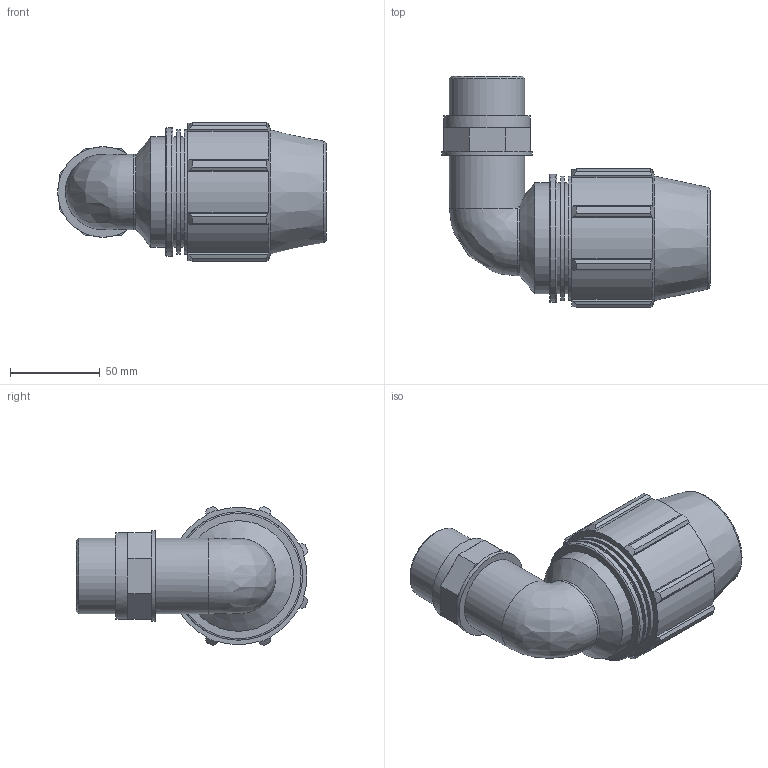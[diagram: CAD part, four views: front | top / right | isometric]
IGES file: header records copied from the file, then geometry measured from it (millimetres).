
Global section: file name: 077700040013_187700040013_0777060400130A.ipt; native system: Autodesk Inventor 2015; preprocessor: unknown; author: KIM; date: 20170622.103104; units: millimetre
Bounding box: 149.15 x 128.58 x 77.16 mm (x, y, z)
Volume: 358130.2 mm3; surface area: 70328.4 mm2
Topology: 1 solids, 1 shells, 125 faces, 320 edges, 205 vertices
Faces by surface type: plane 76, cylinder 27, cone 12, revolution 9, bspline 1
Full cylindrical faces by diameter (mm): 41.91 x2, 48.197 x1, 50.292 x1, 61.5 x3, 69.2 x2, 71.34 x1
